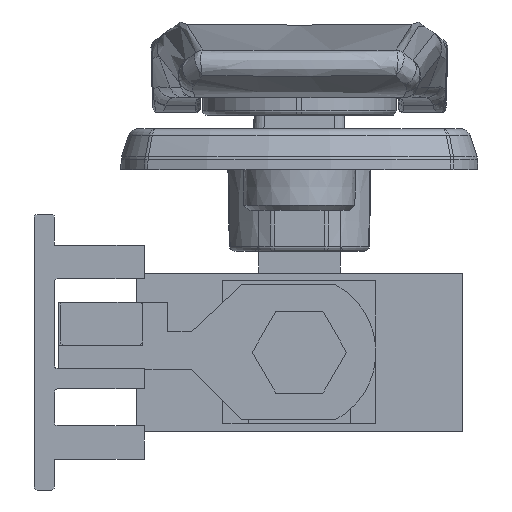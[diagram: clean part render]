
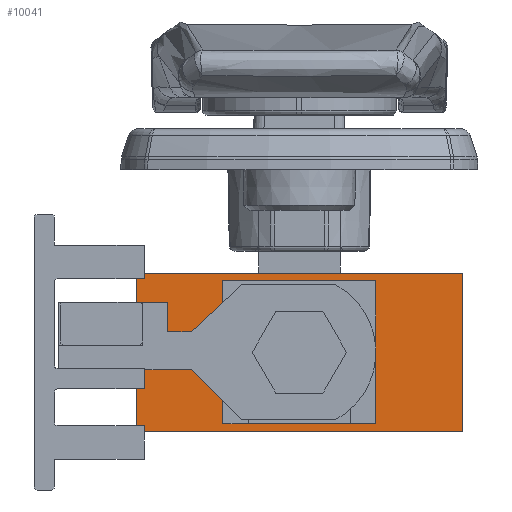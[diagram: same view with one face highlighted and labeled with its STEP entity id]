
A CAD part, front view. The second image highlights one B-rep face of the part: STEP entity #10041.
In plain terms, the highlighted planar face has unit normal (0, -1, 0).
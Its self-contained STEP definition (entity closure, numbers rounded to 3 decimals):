
#26 = LINE ( 'NONE', #26241, #17431 ) ;
#146 = EDGE_CURVE ( 'NONE', #24298, #31067, #2976, .T. ) ;
#210 = CARTESIAN_POINT ( 'NONE',  ( -7., -72.75, 6.25 ) ) ;
#1279 = VECTOR ( 'NONE', #23849, 1000. ) ;
#1430 = VECTOR ( 'NONE', #12679, 1000. ) ;
#1571 = FACE_OUTER_BOUND ( 'NONE', #20984, .T. ) ;
#1831 = VERTEX_POINT ( 'NONE', #4627 ) ;
#1896 = LINE ( 'NONE', #4713, #27967 ) ;
#2032 = DIRECTION ( 'NONE',  ( -1., 0., 0. ) ) ;
#2698 = ORIENTED_EDGE ( 'NONE', *, *, #18561, .F. ) ;
#2976 = LINE ( 'NONE', #12558, #24889 ) ;
#3118 = VERTEX_POINT ( 'NONE', #9431 ) ;
#3539 = ORIENTED_EDGE ( 'NONE', *, *, #9230, .F. ) ;
#3588 = VECTOR ( 'NONE', #28412, 1000. ) ;
#3973 = VERTEX_POINT ( 'NONE', #6005 ) ;
#4627 = CARTESIAN_POINT ( 'NONE',  ( -16., -72.75, 7.75 ) ) ;
#4713 = CARTESIAN_POINT ( 'NONE',  ( 7., -72.75, 6.25 ) ) ;
#4801 = CARTESIAN_POINT ( 'NONE',  ( 7., -72.75, 6.25 ) ) ;
#4960 = EDGE_CURVE ( 'NONE', #1831, #30955, #26, .T. ) ;
#5598 = DIRECTION ( 'NONE',  ( 0., 0., 1. ) ) ;
#6005 = CARTESIAN_POINT ( 'NONE',  ( -16., -72.75, -7.75 ) ) ;
#6279 = DIRECTION ( 'NONE',  ( 0., 0., 1. ) ) ;
#6694 = ORIENTED_EDGE ( 'NONE', *, *, #11160, .F. ) ;
#7629 = EDGE_CURVE ( 'NONE', #1831, #3973, #16656, .T. ) ;
#7726 = DIRECTION ( 'NONE',  ( 1., 0., 0. ) ) ;
#8508 = ORIENTED_EDGE ( 'NONE', *, *, #26320, .F. ) ;
#9088 = VECTOR ( 'NONE', #16560, 1000. ) ;
#9230 = EDGE_CURVE ( 'NONE', #31067, #14208, #23696, .T. ) ;
#9431 = CARTESIAN_POINT ( 'NONE',  ( 16., -72.75, -7.75 ) ) ;
#9817 = VECTOR ( 'NONE', #5598, 1000. ) ;
#10041 = ADVANCED_FACE ( 'NONE', ( #20590, #1571 ), #22630, .F. ) ;
#11160 = EDGE_CURVE ( 'NONE', #14208, #22454, #20370, .T. ) ;
#11688 = CARTESIAN_POINT ( 'NONE',  ( 16., -72.75, 7.75 ) ) ;
#12558 = CARTESIAN_POINT ( 'NONE',  ( -7., -72.75, -6.25 ) ) ;
#12679 = DIRECTION ( 'NONE',  ( 1., 0., 0. ) ) ;
#13245 = CARTESIAN_POINT ( 'NONE',  ( 16., -72.75, 7.75 ) ) ;
#14126 = CARTESIAN_POINT ( 'NONE',  ( -16., -72.75, 7.75 ) ) ;
#14208 = VERTEX_POINT ( 'NONE', #27734 ) ;
#16560 = DIRECTION ( 'NONE',  ( 0., 0., -1. ) ) ;
#16656 = LINE ( 'NONE', #14126, #3588 ) ;
#17135 = ORIENTED_EDGE ( 'NONE', *, *, #17804, .T. ) ;
#17431 = VECTOR ( 'NONE', #7726, 1000. ) ;
#17785 = DIRECTION ( 'NONE',  ( 0., 1., 0. ) ) ;
#17804 = EDGE_CURVE ( 'NONE', #3973, #3118, #26812, .T. ) ;
#18309 = AXIS2_PLACEMENT_3D ( 'NONE', #24977, #17785, #6279 ) ;
#18383 = CARTESIAN_POINT ( 'NONE',  ( -7., -72.75, -6.25 ) ) ;
#18561 = EDGE_CURVE ( 'NONE', #22454, #24298, #1896, .T. ) ;
#18785 = ORIENTED_EDGE ( 'NONE', *, *, #7629, .T. ) ;
#20370 = LINE ( 'NONE', #20675, #9817 ) ;
#20590 = FACE_BOUND ( 'NONE', #21985, .T. ) ;
#20675 = CARTESIAN_POINT ( 'NONE',  ( 7., -72.75, 6.25 ) ) ;
#20984 = EDGE_LOOP ( 'NONE', ( #17135, #8508, #21152, #18785 ) ) ;
#21152 = ORIENTED_EDGE ( 'NONE', *, *, #4960, .F. ) ;
#21604 = ORIENTED_EDGE ( 'NONE', *, *, #146, .F. ) ;
#21985 = EDGE_LOOP ( 'NONE', ( #21604, #2698, #6694, #3539 ) ) ;
#22153 = DIRECTION ( 'NONE',  ( 0., 0., -1. ) ) ;
#22454 = VERTEX_POINT ( 'NONE', #4801 ) ;
#22630 = PLANE ( 'NONE',  #18309 ) ;
#23696 = LINE ( 'NONE', #18383, #1279 ) ;
#23849 = DIRECTION ( 'NONE',  ( 1., 0., 0. ) ) ;
#24298 = VERTEX_POINT ( 'NONE', #210 ) ;
#24617 = CARTESIAN_POINT ( 'NONE',  ( -16., -72.75, -7.75 ) ) ;
#24889 = VECTOR ( 'NONE', #22153, 1000. ) ;
#24977 = CARTESIAN_POINT ( 'NONE',  ( -16., -72.75, 7.75 ) ) ;
#25951 = CARTESIAN_POINT ( 'NONE',  ( -7., -72.75, -6.25 ) ) ;
#26241 = CARTESIAN_POINT ( 'NONE',  ( -16., -72.75, 7.75 ) ) ;
#26320 = EDGE_CURVE ( 'NONE', #30955, #3118, #30845, .T. ) ;
#26812 = LINE ( 'NONE', #24617, #1430 ) ;
#27734 = CARTESIAN_POINT ( 'NONE',  ( 7., -72.75, -6.25 ) ) ;
#27967 = VECTOR ( 'NONE', #2032, 1000. ) ;
#28412 = DIRECTION ( 'NONE',  ( 0., 0., -1. ) ) ;
#30845 = LINE ( 'NONE', #11688, #9088 ) ;
#30955 = VERTEX_POINT ( 'NONE', #13245 ) ;
#31067 = VERTEX_POINT ( 'NONE', #25951 ) ;
